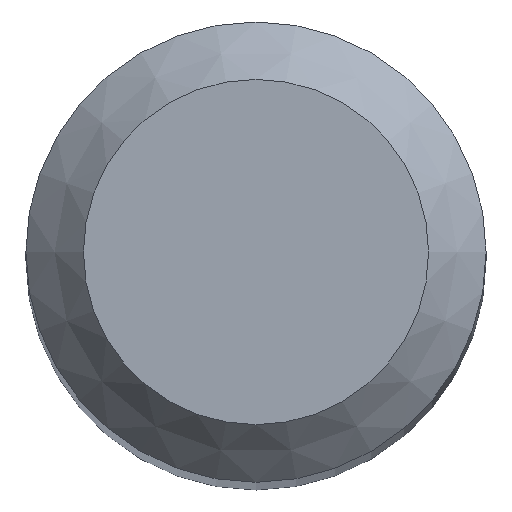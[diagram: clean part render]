
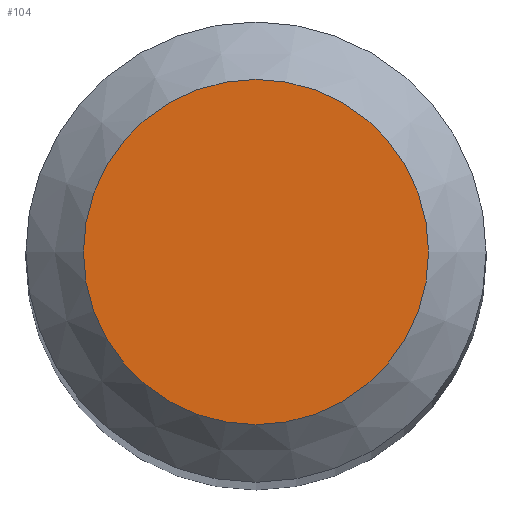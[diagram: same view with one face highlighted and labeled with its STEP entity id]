
A CAD part, top view. The second image highlights one B-rep face of the part: STEP entity #104.
In plain terms, the highlighted planar face has unit normal (0, 0, 1).
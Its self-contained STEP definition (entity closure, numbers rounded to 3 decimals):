
#88=CARTESIAN_POINT('',(1.5,0.0,60.0));
#89=DIRECTION('',(0.0,0.0,1.0));
#90=DIRECTION('',(1.0,0.0,0.0));
#91=AXIS2_PLACEMENT_3D('',#88,#89,#90);
#92=PLANE('',#91);
#93=CARTESIAN_POINT('',(-1.5,0.0,60.));
#94=VERTEX_POINT('',#93);
#95=CARTESIAN_POINT('',(0.0,0.0,60.));
#96=DIRECTION('',(0.0,0.0,-1.0));
#97=DIRECTION('',(-1.0,0.0,0.0));
#98=AXIS2_PLACEMENT_3D('',#95,#96,#97);
#99=CIRCLE('',#98,1.5);
#100=EDGE_CURVE('',#94,#94,#99,.T.);
#101=ORIENTED_EDGE('',*,*,#100,.F.);
#102=EDGE_LOOP('',(#101));
#103=FACE_OUTER_BOUND('',#102,.T.);
#104=ADVANCED_FACE('',(#103),#92,.T.);
